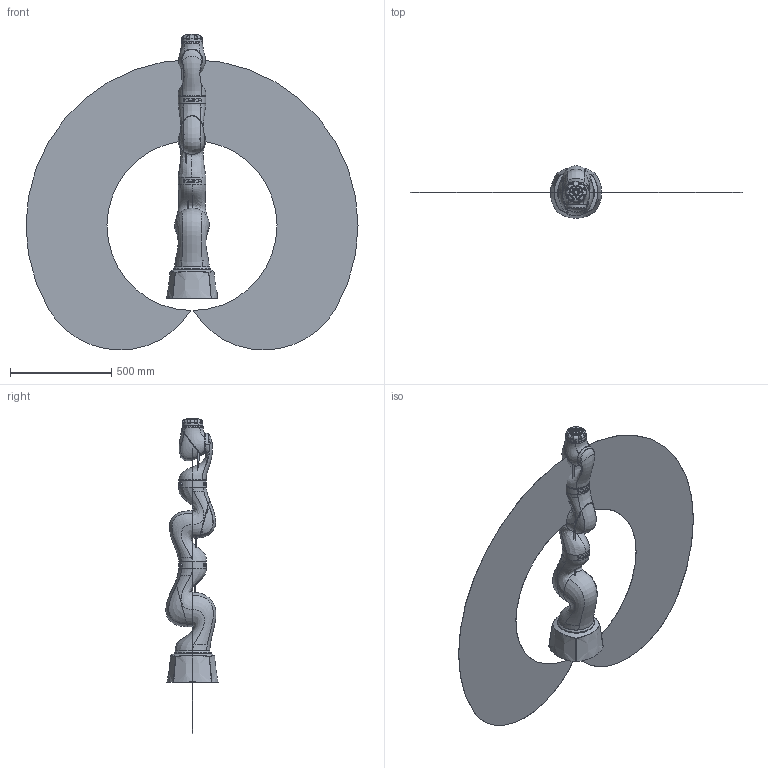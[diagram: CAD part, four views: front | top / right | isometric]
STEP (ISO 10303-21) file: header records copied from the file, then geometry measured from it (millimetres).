
FILE_DESCRIPTION(/* description */ (''),/* implementation_level */ '2;1');
FILE_NAME(/* name */ 'LBR-MED_14kg_toolconnector.stp',/* time_stamp */ '2022-03-18T13:31:42+01:00',/* author */ (''),/* organization */ (''),/* preprocessor_version */ 'ST-DEVELOPER v16.7',/* originating_system */ 'SIEMENS PLM Software NX 1919',/* authorisation */ '');
FILE_SCHEMA (('AUTOMOTIVE_DESIGN { 1 0 10303 214 3 1 1 1 }'));
Products named in the file (1): heck24283CC7xlov
Bounding box: 1640 x 258.31 x 1560.96 mm (x, y, z)
Volume: 25113141.5 mm3; surface area: 3743474.5 mm2
Topology: 10 solids, 36 shells, 1137 faces, 2604 edges, 1665 vertices
Faces by surface type: plane 375, cylinder 337, bspline 181, cone 123, extrusion 84, sphere 33, torus 4
Full cylindrical faces by diameter (mm): 1.06 x26, 1.13 x26, 1.24 x26, 1.27 x26, 1.5 x26, 1.58 x26, 2.2 x16, 3 x1, 4 x8, 5.5 x8, 6 x8, 10 x4, 28 x1, 31.5 x1, 50 x11, 63 x1, 97 x2, 133 x1, 136 x2, 183 x1
Entity records: 85254 total; most frequent: CARTESIAN_POINT 60879, ORIENTED_EDGE 4960, DIRECTION 4531, EDGE_CURVE 2480, AXIS2_PLACEMENT_3D 1854, VERTEX_POINT 1633, EDGE_LOOP 1408, ADVANCED_FACE 1137
